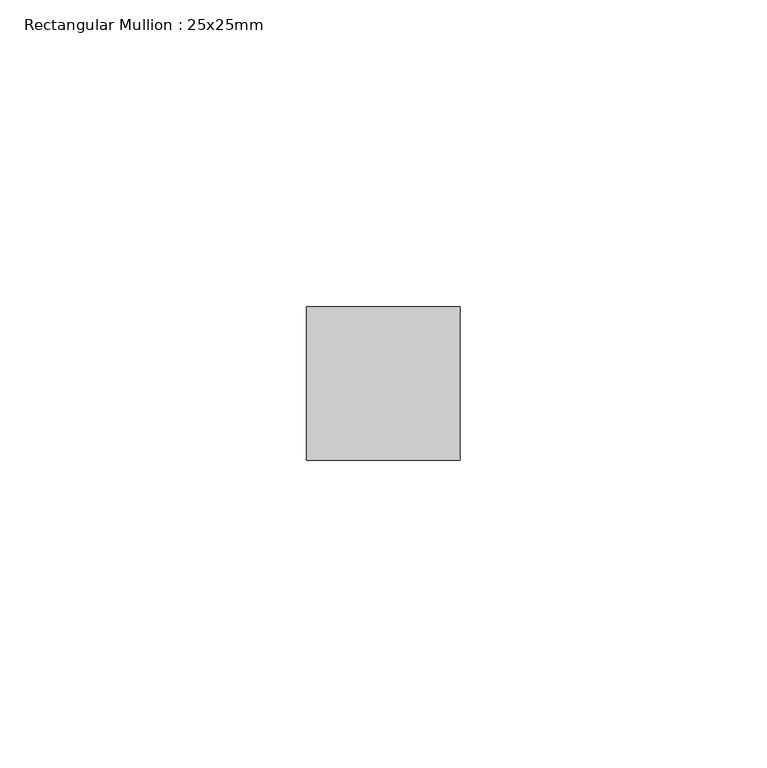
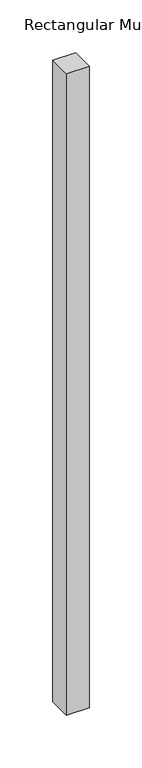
"""IFC4 building model written with IfcOpenShell, lengths in millimetres: member geometry, Rectangular Mullion : 25x25mm."""

from ifc_helpers import new_model, si_unit, frame, origin, place, context, project, spatial, polyline, outline, extrude, source, transform, mapped, element, save


def rectangular_mullion_25x25mm_c4f1ea1c(model_context):
    return source(origin(), model_context, "Body", "SweptSolid", [
        extrude(outline(polyline([(0.0, 24.5), (0.0, -0.5), (-25.0, -0.5), (-25.0, 24.5), (0.0, 24.5)])), frame((0.0, 0.0, -740.0041399), z_axis=(0.0, 0.0, 1.0), x_axis=(1.0, 0.0, 0.0)), (0.0, 0.0, 1.0), 740.0041399),
    ])


if __name__ == "__main__":
    model = new_model("IFC4")
    model_context = context("Model", 3, world=origin())
    ifc_project = project(units=[si_unit("LENGTHUNIT", "METRE", prefix="MILLI")], contexts=[model_context])
    site = spatial("IfcSite", under=ifc_project)
    building = spatial("IfcBuilding", under=site)
    placement = place(None, origin())
    rectangular_mullion_25x25mm_shape = rectangular_mullion_25x25mm_c4f1ea1c(model_context)
    element("IfcMember", 1, ObjectType="Rectangular Mullion : 25x25mm", at=placement, inside=building, context=model_context, shape_type="MappedRepresentation", body=[
        mapped(rectangular_mullion_25x25mm_shape, transform((0.0, 0.0, 0.0), x_axis=(1.0, 0.0, 0.0), y_axis=(0.0, 1.0, 0.0), z_axis=(0.0, 0.0, 1.0))),
    ])
    save(model, "model.ifc")
